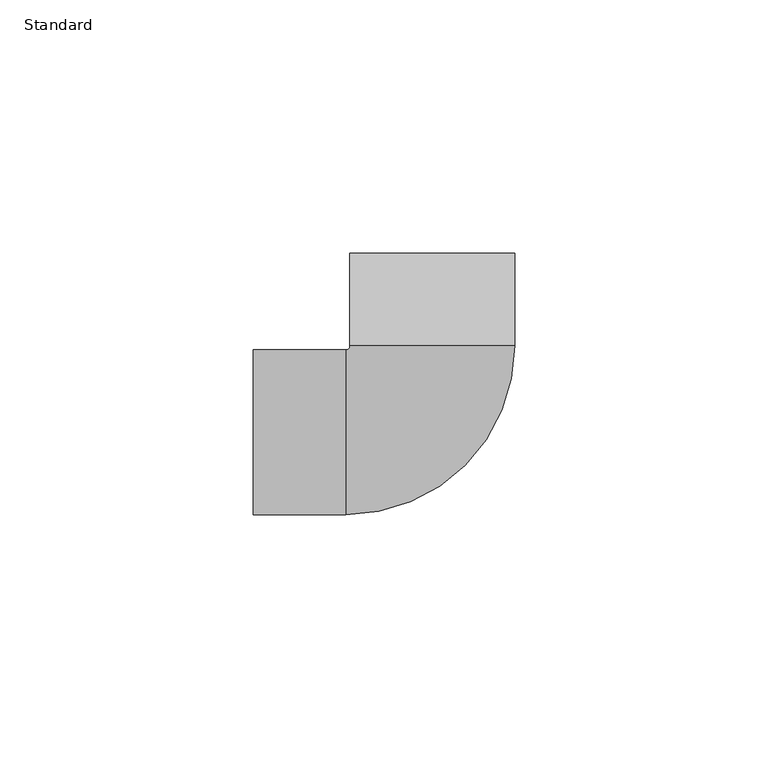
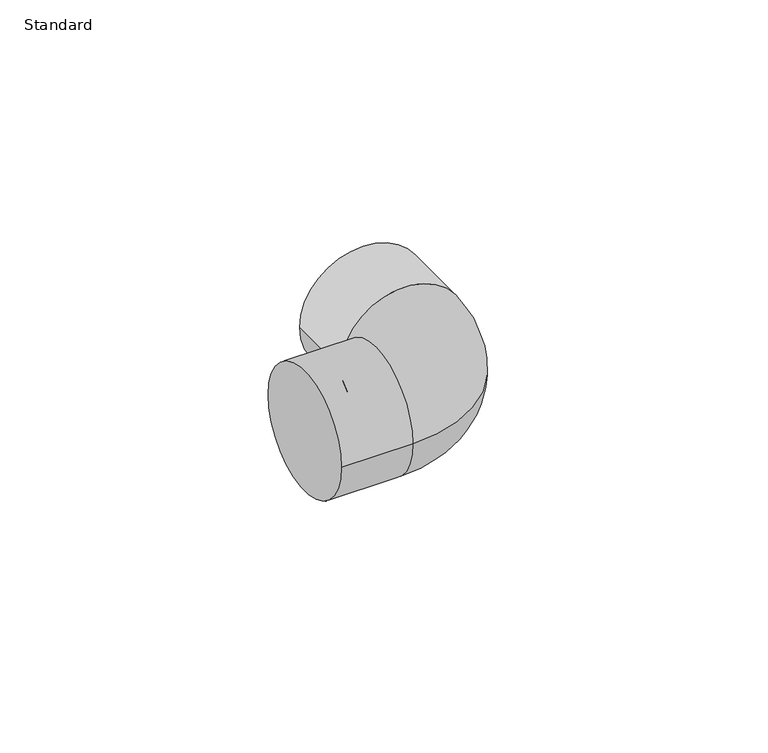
"""IFC4 building model written with IfcOpenShell, lengths in millimetres: pipe fitting geometry, M_Elbow - CPVC - Sch 40 : Standard."""

from ifc_helpers import new_model, si_unit, point, frame, origin, place, context, project, spatial, circle_curve, ellipse_curve, trimmed, source, transform, mapped, element, save
from ifc_brep_helpers import plane_surface, cylinder_surface, revolved_surface, advanced_brep


def standard_b266ab3f(model_context):
    return source(origin(), model_context, "Body", "AdvancedBrep", [
        advanced_brep(
        [(-35.32505, -16.2687, 0.0), (-35.32505, 16.2687, 0.0), (-17.06245, -16.2687, 0.0), (-17.06245, 16.2687, 0.0), (-16.2687, 17.06245, 0.0), (16.2687, 17.06245, 0.0), (16.2687, 35.32505, 0.0), (-16.2687, 35.32505, 0.0)],
        [
            (0, 1, circle_curve(frame((-35.32505, 0.0, 0.0), z_axis=(-1.0, 0.0, 0.0), x_axis=(0.0, 1.0, 0.0)), 16.2687)),
            (1, 0, circle_curve(frame((-35.32505, 0.0, 0.0), z_axis=(-1.0, 0.0, 0.0), x_axis=(0.0, 1.0, 0.0)), 16.2687)),
            (0, 2),
            (2, 3, circle_curve(frame((-17.06245, 0.0, 0.0), z_axis=(-1.0, 0.0, 0.0), x_axis=(0.0, 1.0, 0.0)), 16.2687)),
            (3, 1),
            (3, 2, circle_curve(frame((-17.06245, 0.0, 0.0), z_axis=(-1.0, 0.0, 0.0), x_axis=(0.0, 1.0, 0.0)), 16.2687)),
            (4, 3, circle_curve(frame((-17.06245, 17.06245, 0.0), z_axis=(0.0, 0.0, -1.0), x_axis=(0.0, -1.0, 0.0)), 0.79375)),
            (2, 5, circle_curve(frame((-17.06245, 17.06245, 0.0), z_axis=(0.0, 0.0, 1.0), x_axis=(0.0, -1.0, 0.0)), 33.33115)),
            (5, 4, circle_curve(frame((0.0, 17.06245, 0.0), z_axis=(0.0, -1.0, 0.0), x_axis=(-1.0, 0.0, 0.0)), 16.2687)),
            (4, 5, circle_curve(frame((0.0, 17.06245, 0.0), z_axis=(0.0, -1.0, 0.0), x_axis=(-1.0, 0.0, 0.0)), 16.2687)),
            (6, 7, circle_curve(frame((0.0, 35.32505, 0.0), z_axis=(0.0, 1.0, 0.0), x_axis=(-1.0, 0.0, 0.0)), 16.2687)),
            (7, 6, circle_curve(frame((0.0, 35.32505, 0.0), z_axis=(0.0, 1.0, 0.0), x_axis=(-1.0, 0.0, 0.0)), 16.2687)),
            (5, 6),
            (7, 4),
        ],
        [
            plane_surface(frame((-35.32505, 0.0, 0.0), z_axis=(-1.0, 0.0, 0.0), x_axis=(0.0, 0.0, 1.0))),
            cylinder_surface(frame((-35.32505, 0.0, 0.0), z_axis=(-1.0, 0.0, 0.0), x_axis=(0.0, 1.0, 0.0)), 16.2687),
            revolved_surface(trimmed(ellipse_curve(frame((-17.06245, 0.0, 0.0), z_axis=(-1.0, 0.0, 0.0), x_axis=(0.0, 1.0, 0.0)), 16.2687, 16.2687), [point((-17.06245, -16.2687, 0.0))], [point((-17.06245, 16.2687, 0.0))], True, "CARTESIAN"), (-17.06245, 17.06245, 0.0), (0.0, 0.0, 1.0)),
            revolved_surface(trimmed(ellipse_curve(frame((-17.06245, 0.0, 0.0), z_axis=(-1.0, 0.0, 0.0), x_axis=(0.0, 1.0, 0.0)), 16.2687, 16.2687), [point((-17.06245, 16.2687, 0.0))], [point((-17.06245, -16.2687, 0.0))], True, "CARTESIAN"), (-17.06245, 17.06245, 0.0), (0.0, 0.0, 1.0)),
            plane_surface(frame((0.0, 35.32505, 0.0), z_axis=(0.0, 1.0, 0.0), x_axis=(0.0, 0.0, 1.0))),
            cylinder_surface(frame((0.0, 17.06245, 0.0), z_axis=(0.0, -1.0, 0.0), x_axis=(-1.0, 0.0, 0.0)), 16.2687),
        ],
        [
            (0, [[1, 2]]),
            (1, [[-1, 3, 4, 5]]),
            (1, [[-2, -5, 6, -3]]),
            (2, [[7, -4, 8, 9]]),
            (3, [[-8, -6, -7, 10]]),
            (4, [[11, 12]]),
            (5, [[-9, 13, -12, 14]]),
            (5, [[-10, -14, -11, -13]]),
        ],
    ),
    ])


if __name__ == "__main__":
    model = new_model("IFC4")
    model_context = context("Model", 3, world=origin())
    ifc_project = project(units=[si_unit("LENGTHUNIT", "METRE", prefix="MILLI")], contexts=[model_context])
    site = spatial("IfcSite", under=ifc_project)
    building = spatial("IfcBuilding", under=site)
    placement = place(None, origin())
    standard_shape = standard_b266ab3f(model_context)
    element("IfcPipeFitting", 1, ObjectType="M_Elbow - CPVC - Sch 40 : Standard", at=placement, inside=building, context=model_context, shape_type="MappedRepresentation", body=[
        mapped(standard_shape, transform((0.0, 0.0, 0.0), x_axis=(1.0, 0.0, 0.0), y_axis=(0.0, 1.0, 0.0), z_axis=(0.0, 0.0, 1.0))),
    ])
    save(model, "model.ifc")
